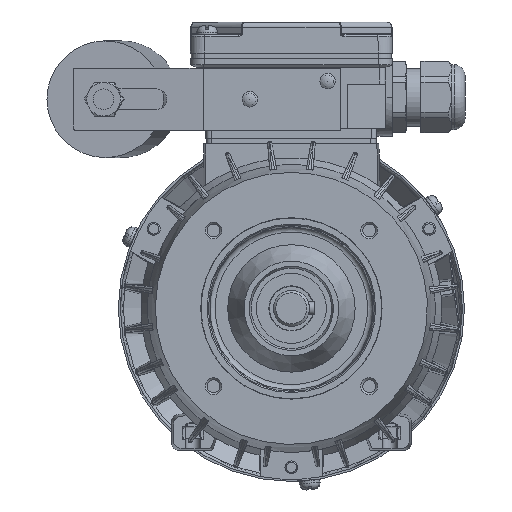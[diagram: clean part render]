
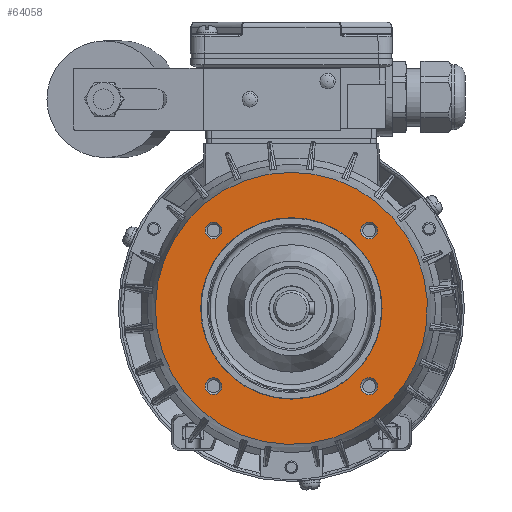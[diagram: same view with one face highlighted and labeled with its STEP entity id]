
A CAD part, front view. The second image highlights one B-rep face of the part: STEP entity #64058.
In plain terms, the highlighted planar face has unit normal (0, -1, 0).
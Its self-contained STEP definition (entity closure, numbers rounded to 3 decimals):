
#2635=CIRCLE('',#67947,35.);
#2636=CIRCLE('',#67949,3.259);
#2637=CIRCLE('',#67951,3.259);
#2638=CIRCLE('',#67953,3.259);
#2639=CIRCLE('',#67955,3.259);
#2794=CIRCLE('',#68209,52.5);
#10193=PLANE('',#68208);
#20520=ORIENTED_EDGE('',*,*,#28973,.T.);
#20521=ORIENTED_EDGE('',*,*,#28972,.T.);
#20522=ORIENTED_EDGE('',*,*,#28971,.T.);
#20523=ORIENTED_EDGE('',*,*,#28970,.T.);
#20524=ORIENTED_EDGE('',*,*,#28969,.F.);
#20525=ORIENTED_EDGE('',*,*,#29342,.T.);
#28969=EDGE_CURVE('',#34185,#34185,#2635,.T.);
#28970=EDGE_CURVE('',#34186,#34186,#2636,.T.);
#28971=EDGE_CURVE('',#34187,#34187,#2637,.T.);
#28972=EDGE_CURVE('',#34188,#34188,#2638,.T.);
#28973=EDGE_CURVE('',#34189,#34189,#2639,.T.);
#29342=EDGE_CURVE('',#34440,#34440,#2794,.T.);
#34185=VERTEX_POINT('',#100376);
#34186=VERTEX_POINT('',#100379);
#34187=VERTEX_POINT('',#100382);
#34188=VERTEX_POINT('',#100385);
#34189=VERTEX_POINT('',#100388);
#34440=VERTEX_POINT('',#103135);
#39634=EDGE_LOOP('',(#20520));
#39635=EDGE_LOOP('',(#20521));
#39636=EDGE_LOOP('',(#20522));
#39637=EDGE_LOOP('',(#20523));
#39638=EDGE_LOOP('',(#20524));
#39639=EDGE_LOOP('',(#20525));
#42723=FACE_BOUND('',#39634,.T.);
#42724=FACE_BOUND('',#39635,.T.);
#42725=FACE_BOUND('',#39636,.T.);
#42726=FACE_BOUND('',#39637,.T.);
#42727=FACE_BOUND('',#39638,.T.);
#42728=FACE_BOUND('',#39639,.T.);
#64058=ADVANCED_FACE('',(#42723,#42724,#42725,#42726,#42727,#42728),#10193,
 .F.);
#67947=AXIS2_PLACEMENT_3D('',#100375,#77619,#77620);
#67949=AXIS2_PLACEMENT_3D('',#100378,#77623,#77624);
#67951=AXIS2_PLACEMENT_3D('',#100381,#77627,#77628);
#67953=AXIS2_PLACEMENT_3D('',#100384,#77631,#77632);
#67955=AXIS2_PLACEMENT_3D('',#100387,#77635,#77636);
#68208=AXIS2_PLACEMENT_3D('',#103133,#78205,#78206);
#68209=AXIS2_PLACEMENT_3D('',#103134,#78207,#78208);
#77619=DIRECTION('',(0.,-1.,0.));
#77620=DIRECTION('',(0.,0.,1.));
#77623=DIRECTION('',(0.,1.,0.));
#77624=DIRECTION('',(1.,0.,0.));
#77627=DIRECTION('',(0.,1.,0.));
#77628=DIRECTION('',(1.,0.,0.));
#77631=DIRECTION('',(0.,1.,0.));
#77632=DIRECTION('',(1.,0.,0.));
#77635=DIRECTION('',(0.,1.,0.));
#77636=DIRECTION('',(1.,0.,0.));
#78205=DIRECTION('',(0.,1.,0.));
#78206=DIRECTION('',(0.,0.,-1.));
#78207=DIRECTION('',(0.,-1.,0.));
#78208=DIRECTION('',(0.,0.,1.));
#100375=CARTESIAN_POINT('',(0.,-90.5,0.));
#100376=CARTESIAN_POINT('',(0.,-90.5,35.));
#100378=CARTESIAN_POINT('',(30.052,-90.5,30.052));
#100379=CARTESIAN_POINT('',(33.311,-90.5,30.052));
#100381=CARTESIAN_POINT('',(30.052,-90.5,-30.052));
#100382=CARTESIAN_POINT('',(33.311,-90.5,-30.052));
#100384=CARTESIAN_POINT('',(-30.052,-90.5,-30.052));
#100385=CARTESIAN_POINT('',(-26.794,-90.5,-30.052));
#100387=CARTESIAN_POINT('',(-30.052,-90.5,30.052));
#100388=CARTESIAN_POINT('',(-26.794,-90.5,30.052));
#103133=CARTESIAN_POINT('',(0.,-90.5,52.5));
#103134=CARTESIAN_POINT('',(0.,-90.5,0.));
#103135=CARTESIAN_POINT('',(0.,-90.5,52.5));
